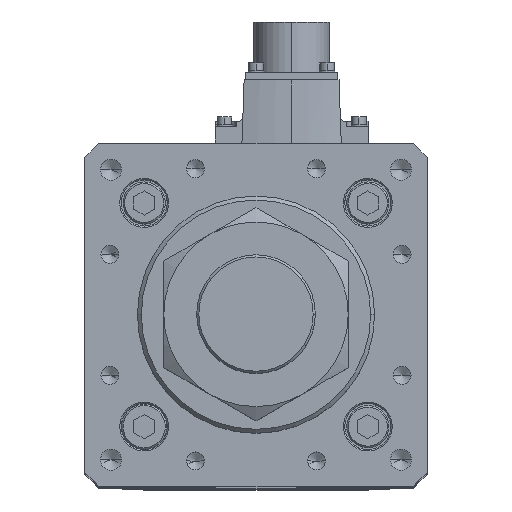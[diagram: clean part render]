
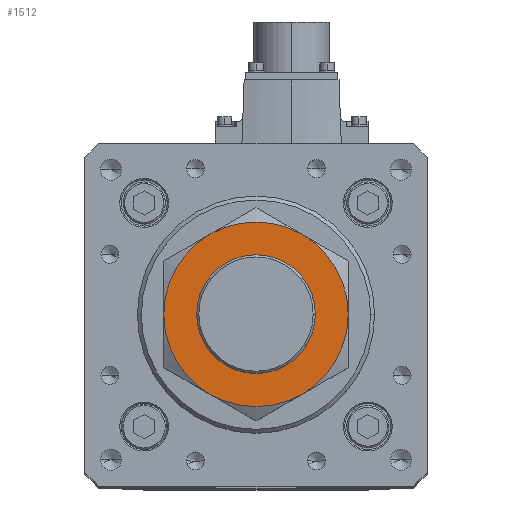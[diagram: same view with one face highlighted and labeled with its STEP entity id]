
A CAD part, top view. The second image highlights one B-rep face of the part: STEP entity #1512.
In plain terms, the highlighted planar face has unit normal (0, 0, 1).
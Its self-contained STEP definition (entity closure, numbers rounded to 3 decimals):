
#121 = EDGE_LOOP ( 'NONE', ( #19998, #3595, #29239, #30860, #19556, #25203 ) ) ;
#140 = AXIS2_PLACEMENT_3D ( 'NONE', #11548, #26396, #8495 ) ;
#637 = CARTESIAN_POINT ( 'NONE',  ( 17.5, 30.311, 27. ) ) ;
#1431 = VERTEX_POINT ( 'NONE', #11635 ) ;
#1512 = ADVANCED_FACE ( 'NONE', ( #6385, #21603 ), #29034, .T. ) ;
#1911 = CIRCLE ( 'NONE', #10289, 35. ) ;
#1942 = CARTESIAN_POINT ( 'NONE',  ( 17.5, -30.311, 27. ) ) ;
#2401 = DIRECTION ( 'NONE',  ( -1., 0., 0. ) ) ;
#3573 = CIRCLE ( 'NONE', #14882, 35. ) ;
#3595 = ORIENTED_EDGE ( 'NONE', *, *, #5359, .F. ) ;
#4174 = EDGE_CURVE ( 'NONE', #13488, #32565, #13624, .T. ) ;
#4210 = CARTESIAN_POINT ( 'NONE',  ( 0., 0., 27. ) ) ;
#4570 = VERTEX_POINT ( 'NONE', #7386 ) ;
#4832 = CIRCLE ( 'NONE', #35243, 22.5 ) ;
#5359 = EDGE_CURVE ( 'NONE', #32565, #4570, #35277, .T. ) ;
#5420 = EDGE_CURVE ( 'NONE', #34523, #28480, #4832, .T. ) ;
#5602 = ORIENTED_EDGE ( 'NONE', *, *, #32249, .F. ) ;
#6385 = FACE_OUTER_BOUND ( 'NONE', #121, .T. ) ;
#7207 = EDGE_CURVE ( 'NONE', #20814, #13488, #1911, .T. ) ;
#7381 = DIRECTION ( 'NONE',  ( 0., 0., 1. ) ) ;
#7386 = CARTESIAN_POINT ( 'NONE',  ( 35., 0., 27. ) ) ;
#7396 = CARTESIAN_POINT ( 'NONE',  ( 22.5, 0., 27. ) ) ;
#8495 = DIRECTION ( 'NONE',  ( -1., 0., 0. ) ) ;
#9483 = AXIS2_PLACEMENT_3D ( 'NONE', #25848, #25971, #2401 ) ;
#10289 = AXIS2_PLACEMENT_3D ( 'NONE', #21256, #27077, #35494 ) ;
#10935 = AXIS2_PLACEMENT_3D ( 'NONE', #30728, #21910, #24880 ) ;
#11144 = EDGE_CURVE ( 'NONE', #4570, #33963, #3573, .T. ) ;
#11511 = DIRECTION ( 'NONE',  ( 0., 0., -1. ) ) ;
#11548 = CARTESIAN_POINT ( 'NONE',  ( 0., 0., 27. ) ) ;
#11635 = CARTESIAN_POINT ( 'NONE',  ( -17.5, -30.311, 27. ) ) ;
#12293 = CARTESIAN_POINT ( 'NONE',  ( -22.5, 0., 27. ) ) ;
#13488 = VERTEX_POINT ( 'NONE', #23561 ) ;
#13624 = CIRCLE ( 'NONE', #23070, 35. ) ;
#13815 = CIRCLE ( 'NONE', #15922, 35. ) ;
#14882 = AXIS2_PLACEMENT_3D ( 'NONE', #19889, #25433, #20134 ) ;
#15698 = CIRCLE ( 'NONE', #10935, 22.5 ) ;
#15708 = ORIENTED_EDGE ( 'NONE', *, *, #5420, .F. ) ;
#15922 = AXIS2_PLACEMENT_3D ( 'NONE', #4210, #33858, #16185 ) ;
#16185 = DIRECTION ( 'NONE',  ( -1., 0., 0. ) ) ;
#17838 = DIRECTION ( 'NONE',  ( -1., 0., 0. ) ) ;
#18089 = DIRECTION ( 'NONE',  ( 1., 0., 0. ) ) ;
#19556 = ORIENTED_EDGE ( 'NONE', *, *, #24312, .F. ) ;
#19889 = CARTESIAN_POINT ( 'NONE',  ( 0., 0., 27. ) ) ;
#19998 = ORIENTED_EDGE ( 'NONE', *, *, #11144, .F. ) ;
#20134 = DIRECTION ( 'NONE',  ( -1., 0., 0. ) ) ;
#20728 = CARTESIAN_POINT ( 'NONE',  ( 0., 0., 27. ) ) ;
#20814 = VERTEX_POINT ( 'NONE', #33199 ) ;
#21256 = CARTESIAN_POINT ( 'NONE',  ( 0., 0., 27. ) ) ;
#21603 = FACE_BOUND ( 'NONE', #21992, .T. ) ;
#21910 = DIRECTION ( 'NONE',  ( 0., 0., 1. ) ) ;
#21992 = EDGE_LOOP ( 'NONE', ( #15708, #5602 ) ) ;
#23070 = AXIS2_PLACEMENT_3D ( 'NONE', #35031, #11511, #17838 ) ;
#23561 = CARTESIAN_POINT ( 'NONE',  ( -17.5, 30.311, 27. ) ) ;
#24312 = EDGE_CURVE ( 'NONE', #1431, #20814, #13815, .T. ) ;
#24880 = DIRECTION ( 'NONE',  ( 1., 0., 0. ) ) ;
#25203 = ORIENTED_EDGE ( 'NONE', *, *, #33029, .F. ) ;
#25433 = DIRECTION ( 'NONE',  ( 0., 0., -1. ) ) ;
#25848 = CARTESIAN_POINT ( 'NONE',  ( 0., 0., 27. ) ) ;
#25971 = DIRECTION ( 'NONE',  ( 0., 0., -1. ) ) ;
#26396 = DIRECTION ( 'NONE',  ( 0., 0., -1. ) ) ;
#27077 = DIRECTION ( 'NONE',  ( 0., 0., -1. ) ) ;
#28480 = VERTEX_POINT ( 'NONE', #7396 ) ;
#29034 = PLANE ( 'NONE',  #33151 ) ;
#29239 = ORIENTED_EDGE ( 'NONE', *, *, #4174, .F. ) ;
#30728 = CARTESIAN_POINT ( 'NONE',  ( 0., 0., 27. ) ) ;
#30860 = ORIENTED_EDGE ( 'NONE', *, *, #7207, .F. ) ;
#32249 = EDGE_CURVE ( 'NONE', #28480, #34523, #15698, .T. ) ;
#32565 = VERTEX_POINT ( 'NONE', #637 ) ;
#32734 = DIRECTION ( 'NONE',  ( 0., 0., 1. ) ) ;
#33029 = EDGE_CURVE ( 'NONE', #33963, #1431, #35043, .T. ) ;
#33151 = AXIS2_PLACEMENT_3D ( 'NONE', #34330, #7381, #18089 ) ;
#33199 = CARTESIAN_POINT ( 'NONE',  ( -35., 0., 27. ) ) ;
#33858 = DIRECTION ( 'NONE',  ( 0., 0., -1. ) ) ;
#33963 = VERTEX_POINT ( 'NONE', #1942 ) ;
#34330 = CARTESIAN_POINT ( 'NONE',  ( 0., 0., 27. ) ) ;
#34523 = VERTEX_POINT ( 'NONE', #12293 ) ;
#35031 = CARTESIAN_POINT ( 'NONE',  ( 0., 0., 27. ) ) ;
#35043 = CIRCLE ( 'NONE', #9483, 35. ) ;
#35243 = AXIS2_PLACEMENT_3D ( 'NONE', #20728, #32734, #38274 ) ;
#35277 = CIRCLE ( 'NONE', #140, 35. ) ;
#35494 = DIRECTION ( 'NONE',  ( -1., 0., 0. ) ) ;
#38274 = DIRECTION ( 'NONE',  ( 1., 0., 0. ) ) ;
